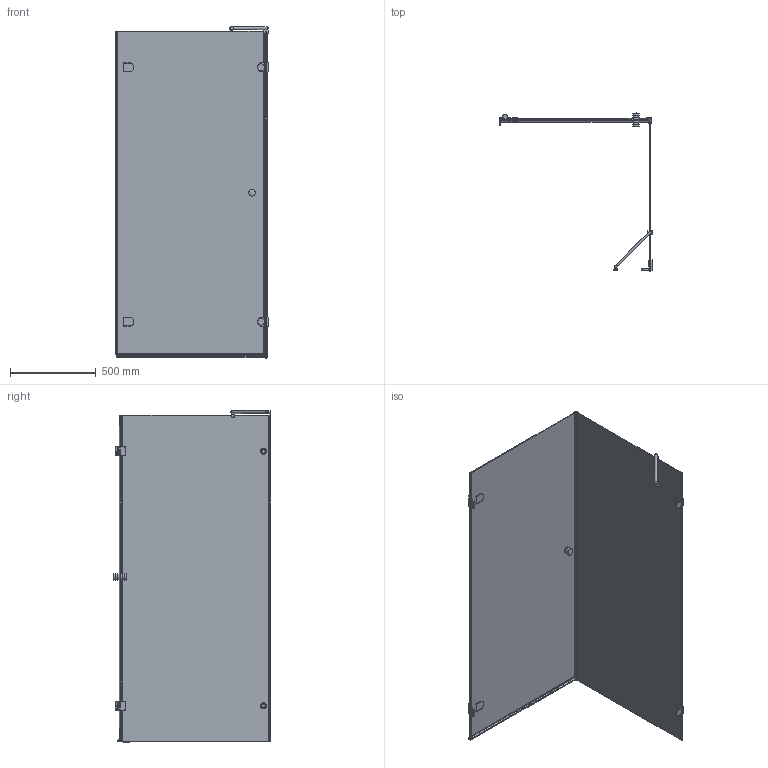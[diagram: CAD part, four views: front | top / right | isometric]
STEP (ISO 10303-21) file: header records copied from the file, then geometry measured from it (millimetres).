
FILE_DESCRIPTION(/* description */ (''),/* implementation_level */ '2;1');
FILE_NAME(/* name */ 'E:\Работа\Сергей\Душевые кабинки\! Работа\!!!!\LUX SQUARE GK-001\LUX SQUARE GK-001 правая модель\LUX SQUARE GK-001 ПРАВАЯ-3D.stp',/* time_stamp */ '2018-02-08T18:48:58+03:00',/* author */ ('PC'),/* organization */ (''),/* preprocessor_version */ 'ST-DEVELOPER v15.2',/* originating_system */ 'Autodesk Inventor 2014',/* authorisation */ '');
FILE_SCHEMA (('AUTOMOTIVE_DESIGN { 1 0 10303 214 3 1 1 }'));
Length unit declared in the file: millimetre
Products named in the file (1): LUX SQUARE GK-001 ПРАВАЯ-3D
Bounding box: 893.5 x 918 x 1931.49 mm (x, y, z)
Volume: 20685996.9 mm3; surface area: 6999857.6 mm2
Topology: 12 solids, 14 shells, 508 faces, 1398 edges, 921 vertices
Faces by surface type: plane 342, cylinder 136, torus 13, bspline 8, sphere 7, cone 2
Full cylindrical faces by diameter (mm): 15 x1, 20 x2, 26 x1, 35 x2, 38 x4, 40 x2
Entity records: 16855 total; most frequent: CARTESIAN_POINT 3310, ORIENTED_EDGE 2732, DIRECTION 2664, EDGE_CURVE 1366, LINE 988, VECTOR 988, VERTEX_POINT 912, AXIS2_PLACEMENT_3D 838
